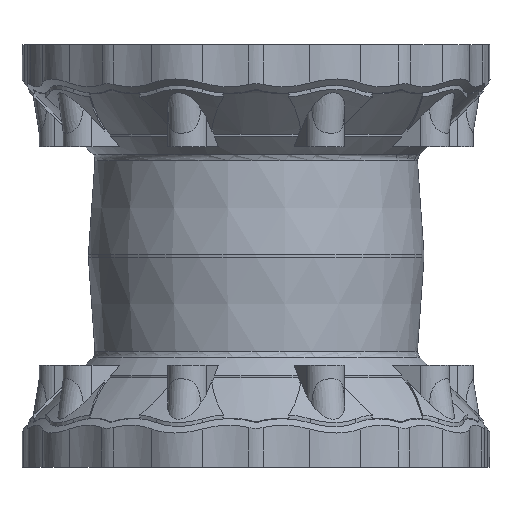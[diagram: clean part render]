
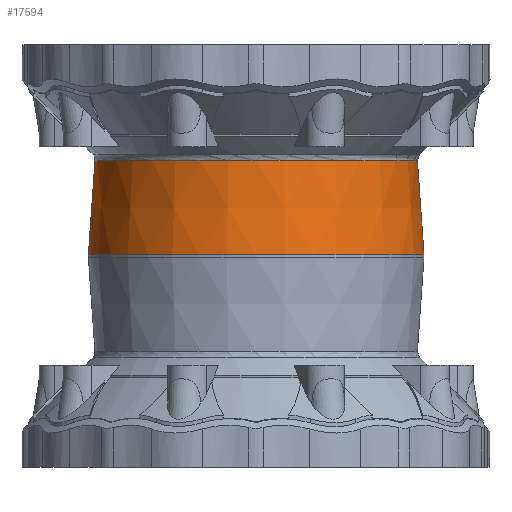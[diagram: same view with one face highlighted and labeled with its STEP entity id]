
A CAD part, front view. The second image highlights one B-rep face of the part: STEP entity #17594.
In plain terms, the highlighted conical face has half-angle 4 degrees and reference radius 216.792 mm.
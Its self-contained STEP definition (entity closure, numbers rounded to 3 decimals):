
#878 = FACE_BOUND ( 'NONE', #17822, .T. ) ;
#880 = FACE_OUTER_BOUND ( 'NONE', #17824, .T. ) ;
#885 = CONICAL_SURFACE ( 'NONE', #2015, 216.792, 0.07 ) ;
#1193 = CIRCLE ( 'NONE', #2126, 210.349 ) ;
#1195 = CIRCLE ( 'NONE', #2127, 218.964 ) ;
#1565 = DIRECTION ( 'NONE',  ( 0.766, -0.643, 0. ) ) ;
#1567 = CARTESIAN_POINT ( 'NONE',  ( 0., 0., 64.9 ) ) ;
#1568 = DIRECTION ( 'NONE',  ( 0., 0., -1. ) ) ;
#2015 = AXIS2_PLACEMENT_3D ( 'NONE', #1567, #1568, #1565 ) ;
#2126 = AXIS2_PLACEMENT_3D ( 'NONE', #5242, #5243, #5244 ) ;
#2127 = AXIS2_PLACEMENT_3D ( 'NONE', #5246, #5247, #5248 ) ;
#5242 = CARTESIAN_POINT ( 'NONE',  ( 0., 0., 157.037 ) ) ;
#5243 = DIRECTION ( 'NONE',  ( 0., 0., 1. ) ) ;
#5244 = DIRECTION ( 'NONE',  ( 0.766, -0.643, 0. ) ) ;
#5246 = CARTESIAN_POINT ( 'NONE',  ( 0., 0., 33.845 ) ) ;
#5247 = DIRECTION ( 'NONE',  ( 0., 0., 1. ) ) ;
#5248 = DIRECTION ( 'NONE',  ( 1., 0., 0. ) ) ;
#9928 = VERTEX_POINT ( 'NONE', #17192 ) ;
#9941 = VERTEX_POINT ( 'NONE', #17193 ) ;
#17192 = CARTESIAN_POINT ( 'NONE',  ( 161.137, -135.21, 157.037 ) ) ;
#17193 = CARTESIAN_POINT ( 'NONE',  ( 218.964, 0., 33.845 ) ) ;
#17594 = ADVANCED_FACE ( 'NONE', ( #880, #878 ), #885, .T. ) ;
#17822 = EDGE_LOOP ( 'NONE', ( #21539 ) ) ;
#17824 = EDGE_LOOP ( 'NONE', ( #21538 ) ) ;
#18201 = EDGE_CURVE ( 'NONE', #9928, #9928, #1193, .T. ) ;
#18202 = EDGE_CURVE ( 'NONE', #9941, #9941, #1195, .T. ) ;
#21538 = ORIENTED_EDGE ( 'NONE', *, *, #18202, .T. ) ;
#21539 = ORIENTED_EDGE ( 'NONE', *, *, #18201, .F. ) ;
